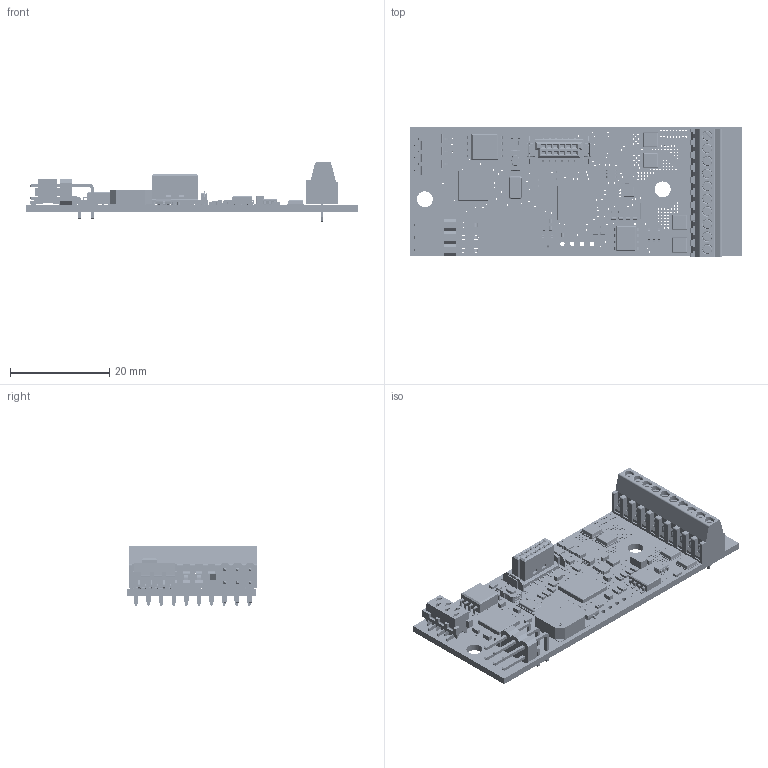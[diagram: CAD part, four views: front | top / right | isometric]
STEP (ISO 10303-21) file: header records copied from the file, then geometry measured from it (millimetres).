
FILE_DESCRIPTION(/* description */ (''),/* implementation_level */ '2;1');
FILE_NAME(/* name */ 'D:/LouisDokumente/Eigene Dateien/1 Altimax G4/Altimax_G4_F.step',/* time_stamp */ '2021-03-28T17:23:50+02:00',/* author */ (''),/* organization */ (''),/* preprocessor_version */ 'ST-DEVELOPER v18.1',/* originating_system */ 'Autodesk Translation Framework v9.10.0.1330',/* authorisation */ '');
FILE_SCHEMA (('AUTOMOTIVE_DESIGN { 1 0 10303 214 3 1 1 }'));
Products named in the file (48): PCB Component; Board; 2N2222 SMD; MS5607-02BA03; 100n; ST-03PBUZZER; MIC39101-5.0YM; MIC5225; AVR_XMEGA_A4_44M1; SI7232DN; 24795202; single_pad001002; single_pad001001; SI7232DN_1; 24795202 (1); single_pad001002 (1); single_pad001001 (1); MMA655X; AT45DB321E-SHF-T; L10P_REICHELT; 2X03/90; X5R-G1206 100/6 ; base; SolderPad; X5R-G1206 100/6 _1; base (1); SolderPad (1); 404-52012-51; LM293QT; 188275-6; KMR231GLFS; SML-D22MUWT86; SISH615ADN; 24795202 (2); single_pad001002 (2); single_pad001001 (2); SISH615ADN_1; 24795202 (3); single_pad001002 (3); single_pad001001 (3)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
Assembly tree (76 placements, depth 4):
  PCB Component
    Board
    2N2222 SMD
    MS5607-02BA03
    100n  x11
    ST-03PBUZZER
    MIC39101-5.0YM
    MIC5225
    AVR_XMEGA_A4_44M1
    SI7232DN
      24795202
        single_pad001002
        single_pad001001
    SI7232DN_1
      24795202 (1)
        single_pad001002 (1)
        single_pad001001 (1)
    MMA655X
    AT45DB321E-SHF-T
    L10P_REICHELT
    2X03/90
    X5R-G1206 100/6 
      base
      SolderPad  x2
    X5R-G1206 100/6 _1
      base (1)
      SolderPad (1)  x2
    404-52012-51
    LM293QT
    188275-6
    KMR231GLFS
    SML-D22MUWT86
    SISH615ADN
      24795202 (2)
        single_pad001002 (2)
        single_pad001001 (2)
    SISH615ADN_1
      24795202 (3)
        single_pad001002 (3)
        single_pad001001 (3)
    SD103ATW-7-F
    100k  x16
    4k7NW
    1KNW
    1X04M
    1kNW_1
    47kNW  x2
    MOUNT-PAD-ROUND3.2  x2
Bounding box: 67 x 26.06 x 12 mm (x, y, z)
Volume: 4096.3 mm3; surface area: 9567.3 mm2
Topology: 120 solids, 130 shells, 8024 faces, 19605 edges, 11955 vertices
Faces by surface type: plane 5893, cylinder 1593, sphere 272, bspline 176, torus 49, cone 41
Full cylindrical faces by diameter (mm): 0.2 x1, 0.3 x268, 0.5 x2, 0.6 x2, 0.914 x4, 1 x1, 1.016 x16, 1.1 x10, 1.2 x10, 1.5 x11, 1.6 x2, 1.65 x10, 1.9 x10, 2.1 x10, 3.2 x2
Entity records: 215936 total; most frequent: CARTESIAN_POINT 46127, ORIENTED_EDGE 34578, DIRECTION 33387, EDGE_CURVE 17289, LINE 14121, VECTOR 14121, VERTEX_POINT 10667, AXIS2_PLACEMENT_3D 9633
